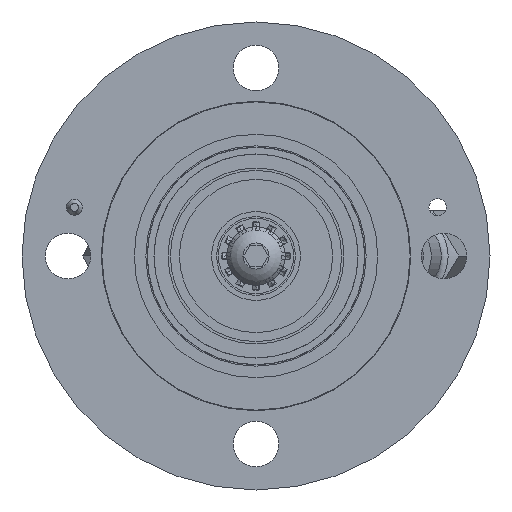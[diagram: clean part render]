
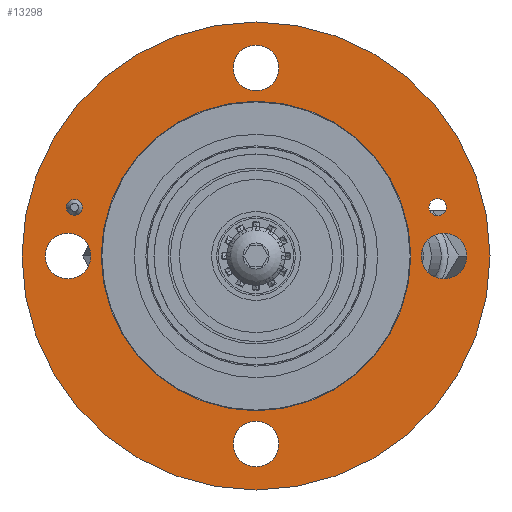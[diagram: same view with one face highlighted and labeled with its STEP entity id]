
A CAD part, front view. The second image highlights one B-rep face of the part: STEP entity #13298.
In plain terms, the highlighted planar face has unit normal (0, -1, 0).
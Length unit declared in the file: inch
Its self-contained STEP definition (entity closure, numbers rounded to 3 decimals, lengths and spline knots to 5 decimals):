
#568=CIRCLE('',#14170,0.0645);
#569=CIRCLE('',#14172,0.1715);
#571=CIRCLE('',#14177,1.1575);
#572=CIRCLE('',#14179,0.06);
#573=CIRCLE('',#14180,0.1715);
#574=CIRCLE('',#14181,0.1715);
#575=CIRCLE('',#14182,0.1715);
#576=CIRCLE('',#14183,1.75);
#947=PLANE('',#14178);
#4235=ORIENTED_EDGE('',*,*,#6236,.F.);
#4236=ORIENTED_EDGE('',*,*,#6240,.F.);
#4237=ORIENTED_EDGE('',*,*,#6241,.T.);
#4238=ORIENTED_EDGE('',*,*,#6242,.T.);
#4239=ORIENTED_EDGE('',*,*,#6243,.T.);
#4240=ORIENTED_EDGE('',*,*,#6237,.T.);
#4241=ORIENTED_EDGE('',*,*,#6239,.T.);
#4242=ORIENTED_EDGE('',*,*,#6244,.F.);
#6236=EDGE_CURVE('',#7427,#7427,#568,.T.);
#6237=EDGE_CURVE('',#7428,#7428,#569,.T.);
#6239=EDGE_CURVE('',#7430,#7430,#571,.T.);
#6240=EDGE_CURVE('',#7431,#7431,#572,.T.);
#6241=EDGE_CURVE('',#7432,#7432,#573,.T.);
#6242=EDGE_CURVE('',#7433,#7433,#574,.T.);
#6243=EDGE_CURVE('',#7434,#7434,#575,.T.);
#6244=EDGE_CURVE('',#7435,#7435,#576,.T.);
#7427=VERTEX_POINT('',#21393);
#7428=VERTEX_POINT('',#21396);
#7430=VERTEX_POINT('',#21403);
#7431=VERTEX_POINT('',#21406);
#7432=VERTEX_POINT('',#21408);
#7433=VERTEX_POINT('',#21410);
#7434=VERTEX_POINT('',#21412);
#7435=VERTEX_POINT('',#21414);
#8537=EDGE_LOOP('',(#4235));
#8538=EDGE_LOOP('',(#4236));
#8539=EDGE_LOOP('',(#4237));
#8540=EDGE_LOOP('',(#4238));
#8541=EDGE_LOOP('',(#4239));
#8542=EDGE_LOOP('',(#4240));
#8543=EDGE_LOOP('',(#4241));
#8544=EDGE_LOOP('',(#4242));
#9376=FACE_BOUND('',#8537,.T.);
#9377=FACE_BOUND('',#8538,.T.);
#9378=FACE_BOUND('',#8539,.T.);
#9379=FACE_BOUND('',#8540,.T.);
#9380=FACE_BOUND('',#8541,.T.);
#9381=FACE_BOUND('',#8542,.T.);
#9382=FACE_BOUND('',#8543,.T.);
#9383=FACE_BOUND('',#8544,.T.);
#13298=ADVANCED_FACE('',(#9376,#9377,#9378,#9379,#9380,#9381,#9382,#9383),
#947,.T.);
#14170=AXIS2_PLACEMENT_3D('',#21392,#16271,#16272);
#14172=AXIS2_PLACEMENT_3D('',#21395,#16275,#16276);
#14177=AXIS2_PLACEMENT_3D('',#21402,#16285,#16286);
#14178=AXIS2_PLACEMENT_3D('',#21404,#16287,#16288);
#14179=AXIS2_PLACEMENT_3D('',#21405,#16289,#16290);
#14180=AXIS2_PLACEMENT_3D('',#21407,#16291,#16292);
#14181=AXIS2_PLACEMENT_3D('',#21409,#16293,#16294);
#14182=AXIS2_PLACEMENT_3D('',#21411,#16295,#16296);
#14183=AXIS2_PLACEMENT_3D('',#21413,#16297,#16298);
#16271=DIRECTION('',(0.,-1.,0.));
#16272=DIRECTION('',(1.,0.,0.));
#16275=DIRECTION('',(0.,1.,0.));
#16276=DIRECTION('',(1.,0.,0.));
#16285=DIRECTION('',(0.,1.,0.));
#16286=DIRECTION('',(-1.,0.,0.));
#16287=DIRECTION('',(0.,-1.,0.));
#16288=DIRECTION('',(1.,0.,0.));
#16289=DIRECTION('',(0.,-1.,0.));
#16290=DIRECTION('',(1.,0.,0.));
#16291=DIRECTION('',(0.,1.,0.));
#16292=DIRECTION('',(0.,0.,-1.));
#16293=DIRECTION('',(0.,1.,0.));
#16294=DIRECTION('',(-1.,0.,0.));
#16295=DIRECTION('',(0.,1.,0.));
#16296=DIRECTION('',(0.,0.,1.));
#16297=DIRECTION('',(0.,1.,0.));
#16298=DIRECTION('',(-1.,0.,0.));
#21392=CARTESIAN_POINT('',(1.35809,-2.223,0.3639));
#21393=CARTESIAN_POINT('',(1.42259,-2.223,0.3639));
#21395=CARTESIAN_POINT('',(0.,-2.223,-1.406));
#21396=CARTESIAN_POINT('',(0.1715,-2.223,-1.406));
#21402=CARTESIAN_POINT('',(0.,-2.223,0.));
#21403=CARTESIAN_POINT('',(-1.1575,-2.223,0.));
#21404=CARTESIAN_POINT('',(-1.75,-2.223,0.));
#21405=CARTESIAN_POINT('',(-1.35809,-2.223,0.3639));
#21406=CARTESIAN_POINT('',(-1.29809,-2.223,0.3639));
#21407=CARTESIAN_POINT('',(-1.406,-2.223,0.));
#21408=CARTESIAN_POINT('',(-1.406,-2.223,-0.1715));
#21409=CARTESIAN_POINT('',(0.,-2.223,1.406));
#21410=CARTESIAN_POINT('',(-0.1715,-2.223,1.406));
#21411=CARTESIAN_POINT('',(1.406,-2.223,0.));
#21412=CARTESIAN_POINT('',(1.406,-2.223,0.1715));
#21413=CARTESIAN_POINT('',(0.,-2.223,0.));
#21414=CARTESIAN_POINT('',(-1.75,-2.223,0.));
